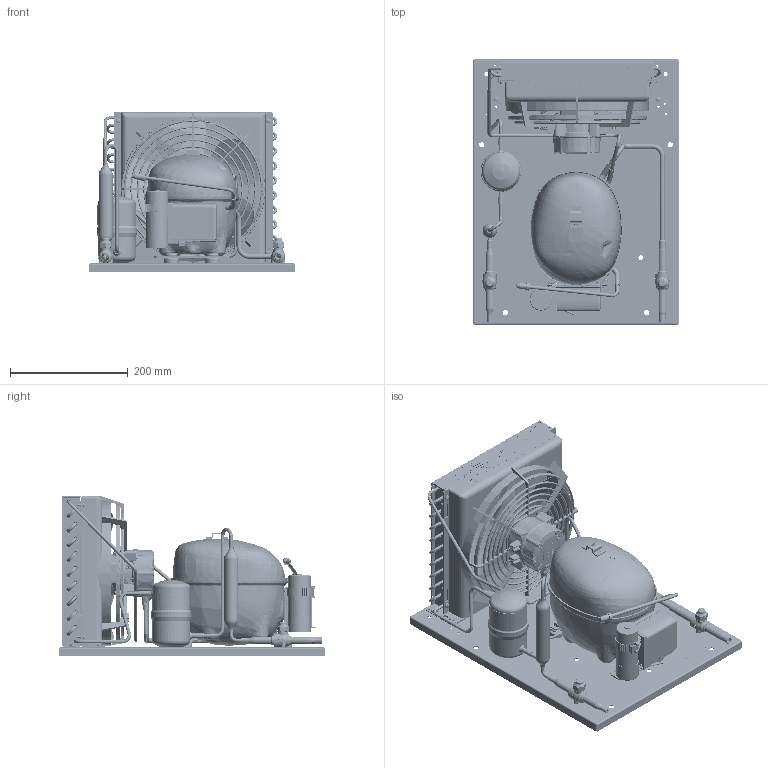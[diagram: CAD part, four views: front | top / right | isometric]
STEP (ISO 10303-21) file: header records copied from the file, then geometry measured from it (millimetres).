
FILE_DESCRIPTION(/* description */ ('Unknown','CAx-IF Rec.Pracs.---Representation and Presentation of Product Manufacturing Information (PMI)---4.0---2014-10-13','CAx-IF Rec.Pracs.---3D Tessellated Geometry---0.4---2014-09-14','2;1'),/* implementation_level */ '2;1');
FILE_NAME(/* name */ '2298-0088',/* time_stamp */ '2023-06-06T10:06:40+02:00',/* author */ ('Unknown'),/* organization */ ('Unknown'),/* preprocessor_version */ 'ST-DEVELOPER v16.7',/* originating_system */ 'Solid Edge',/* authorisation */ 'Unknown');
FILE_SCHEMA (('AP242_MANAGED_MODEL_BASED_3D_ENGINEERING_MIM_LF { 1 0 10303 442 1 1 4 }'));
Products named in the file (46): 2298-0088; 1020240FI0; RL5021807; RL5021801; 2905051820; RL5021806; r57a00289; RL5025004; rn5003008; 7000-0448; 9211-0497; cg230n; 118-3661; 99540010; GFN30_62-62; 6803-2701; 84a4.2x9.5xtbcf01; 84fm6x8xxxxtesf00; 84DM6X5.2XXESRF00; 99500100_oa_0; 7400-0072; a230-28; 62010150; GBC10S-009L7031; 9221-0002; 99000205; 680062923; 99000324; 99000327; 99000326; 99000321; GBC6S-009L7030; 99000025; 84dm4x3.6xxesrf00; 84RM10X21XXPIAF00; 99000044; 99000077_SECOP; 118-7353; 680061642; 7000-0448_COVER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
Assembly tree (92 placements, depth 3):
  2298-0088
    1020240FI0
      RL5021807
      RL5021801
      2905051820  x9
      RL5021806
      r57a00289  x10
      RL5025004  x2
      rn5003008
    7000-0448
    9211-0497
    cg230n
    118-3661  x4
    99540010
    GFN30_62-62
    6803-2701
    84a4.2x9.5xtbcf01  x6
    84fm6x8xxxxtesf00  x2
    84DM6X5.2XXESRF00  x2
    99500100_oa_0
    7400-0072
    a230-28
    62010150
    GBC10S-009L7031
    9221-0002
    99000205
    680062923
    99000324
    99000327
    99000326
    99000321
    GBC6S-009L7030
    99000025
    84dm4x3.6xxesrf00  x4
    84RM10X21XXPIAF00  x4
    99000044
    99000077_SECOP
    118-7353  x4
    680061642
    7000-0448_COVER
    84DM8X6.9XXESRF00
    84fm3x6xxxxtfgf00  x4
    84rm3x8xxxxpiaf00  x8
    6803-2418
    6804-1026
    6803-2702
Bounding box: 350 x 450 x 272.6 mm (x, y, z)
Volume: 3190066.4 mm3; surface area: 1751552 mm2
Topology: 99 solids, 111 shells, 15324 faces, 40600 edges, 26130 vertices
Faces by surface type: plane 7124, cylinder 3427, bspline 2562, torus 1394, cone 681, sphere 136
Full cylindrical faces by diameter (mm): 1.2 x4, 1.3 x2, 1.5 x2, 1.8 x2, 1.945 x3, 2 x20, 2.2 x4, 2.3 x13, 2.45 x6, 2.459 x4, 3 x7, 3.14 x6, 3.15 x4, 3.2 x1, 3.242 x4, 3.34 x8, 3.375 x1, 3.5 x20, 3.6 x1, 4 x27, 4.2 x26, 4.205 x11, 4.5 x29, 4.8 x2, 5 x58, 5.2 x2, 5.48 x34, 5.7 x1, 5.8 x4, 6 x25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
Entity records: 913319 total; most frequent: CARTESIAN_POINT 496252, ORIENTED_EDGE 75304, DIRECTION 59407, EDGE_CURVE 37653, VERTEX_POINT 24880, AXIS2_PLACEMENT_3D 20854, LINE 17699, VECTOR 17699
